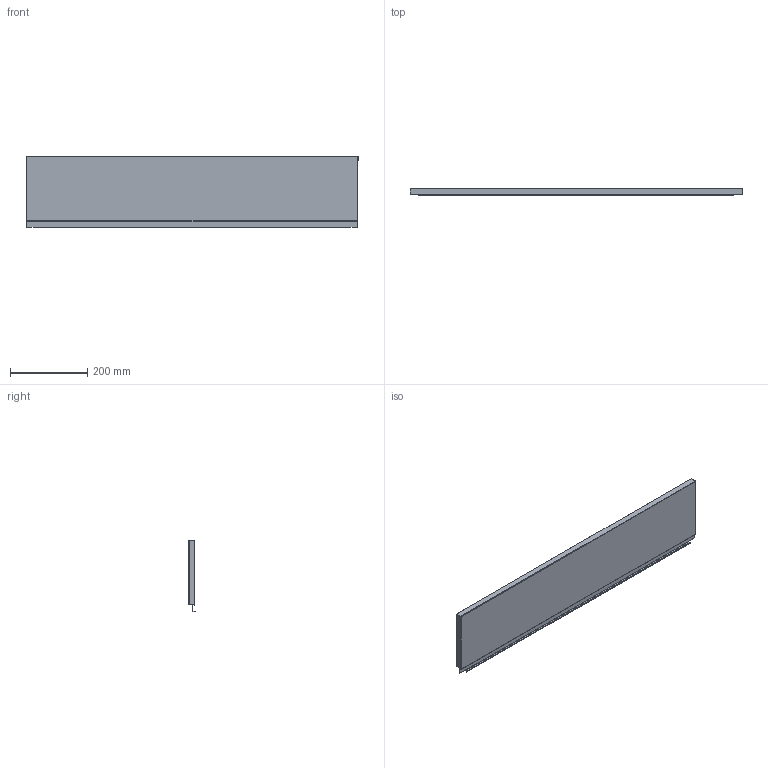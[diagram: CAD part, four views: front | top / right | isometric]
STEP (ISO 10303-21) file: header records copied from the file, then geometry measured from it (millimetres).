
FILE_DESCRIPTION (( 'STEP AP214' ), '1' );
FILE_NAME ('_STRW_H186_KAB_950.step', '2010-08-24T14:40:29', ( 'grass' ), ( '' ), 'SwSTEP 2.0', 'SolidWorks 2009', '' );
FILE_SCHEMA (( 'AUTOMOTIVE_DESIGN' ));
Length unit declared in the file: millimetre
Products named in the file (1): _STRW_H186_KAB_950
Bounding box: 860 x 17 x 186.14 mm (x, y, z)
Volume: 151661.7 mm3; surface area: 380949.8 mm2
Topology: 1 solids, 1 shells, 76 faces, 214 edges, 140 vertices
Faces by surface type: plane 54, cylinder 22
Entity records: 2472 total; most frequent: CARTESIAN_POINT 431, ORIENTED_EDGE 428, DIRECTION 412, EDGE_CURVE 214, LINE 170, VECTOR 170, VERTEX_POINT 140, AXIS2_PLACEMENT_3D 121
